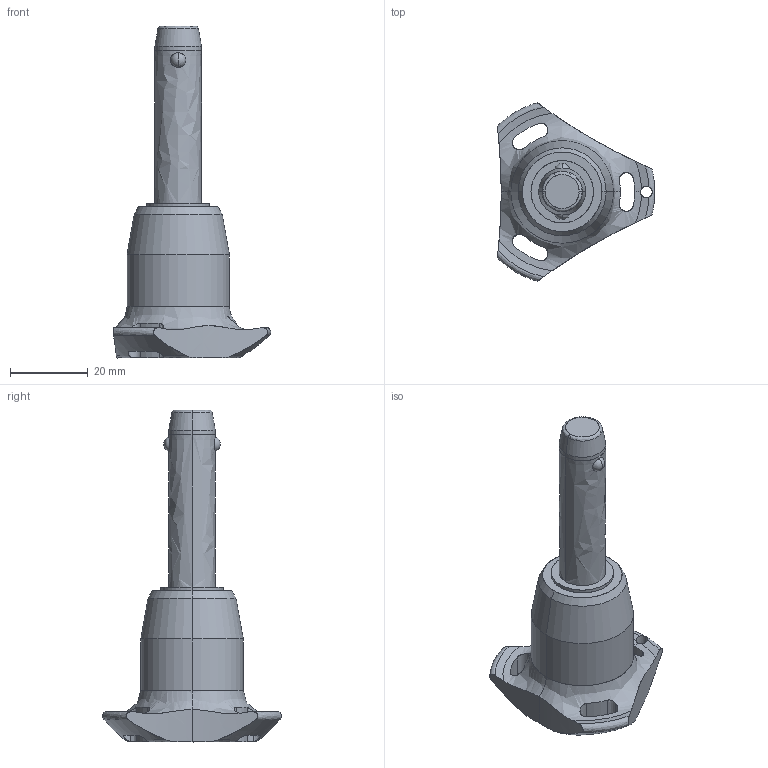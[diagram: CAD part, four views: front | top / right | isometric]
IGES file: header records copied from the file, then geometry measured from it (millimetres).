
Start section: SolidWorks IGES file using analytic representation for surfaces
Global section: file name: C:\Users\ianosborn\Desktop\QR1726_v2\QR1726_v2_20251115_IGES\QR1726.M12-035-T.igs; native system: SolidWorks 2019; preprocessor: SolidWorks 2019; author: IanOsborn; date: 251113.111429; units: millimetre
Bounding box: 40.5 x 45.88 x 85.3 mm (x, y, z)
Surface area: 7635.9 mm2 (no closed solid volume)
Topology: 0 solids, 0 shells, 68 faces, 1433 edges, 1429 vertices
Faces by surface type: revolution 52, bspline 16
